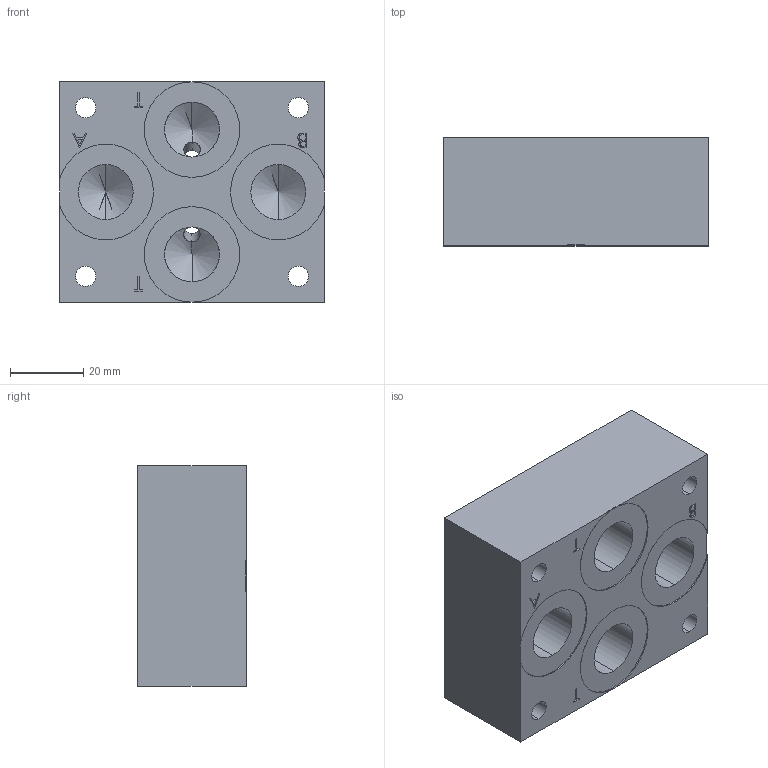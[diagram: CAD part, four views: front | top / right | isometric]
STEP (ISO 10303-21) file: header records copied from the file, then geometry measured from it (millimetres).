
FILE_DESCRIPTION (( 'STEP AP214' ), '1' );
FILE_NAME ('AGUB04.STEP', '2017-03-20T06:01:58', ( '' ), ( '' ), 'SwSTEP 2.0', 'SolidWorks 2016', '' );
FILE_SCHEMA (( 'AUTOMOTIVE_DESIGN' ));
Length unit declared in the file: millimetre
Products named in the file (1): AGUB04
Bounding box: 72 x 29.5 x 60 mm (x, y, z)
Volume: 107066.9 mm3; surface area: 23703.4 mm2
Topology: 1 solids, 1 shells, 227 faces, 584 edges, 372 vertices
Faces by surface type: plane 112, cylinder 52, bspline 43, cone 20
Entity records: 9730 total; most frequent: CARTESIAN_POINT 4327, ORIENTED_EDGE 1128, DIRECTION 924, EDGE_CURVE 564, VERTEX_POINT 372, LINE 370, VECTOR 370, AXIS2_PLACEMENT_3D 277
